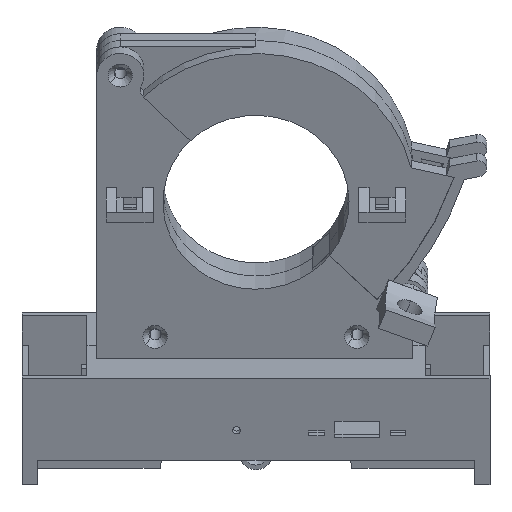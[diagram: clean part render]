
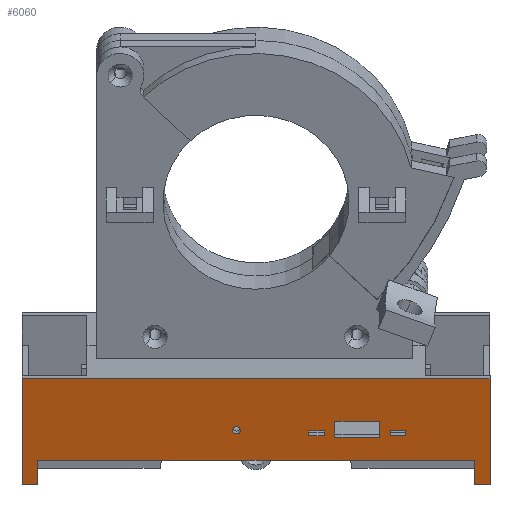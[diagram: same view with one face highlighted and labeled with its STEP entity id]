
A CAD part, top view. The second image highlights one B-rep face of the part: STEP entity #6060.
In plain terms, the highlighted planar face has unit normal (0, -0.359, 0.933) as drawn and (0, -1, 0) by its records, which use the part's own axes.
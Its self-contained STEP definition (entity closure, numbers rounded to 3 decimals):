
#5844=CARTESIAN_POINT('Vertex',(-4.45,-17.5,-42.4)) ;
#5847=CARTESIAN_POINT('Axis2P3D Location',(-3.7,-17.5,-42.4)) ;
#5851=CARTESIAN_POINT('Vertex',(-2.95,-17.5,-42.4)) ;
#5871=CARTESIAN_POINT('Axis2P3D Location',(-3.7,-17.5,-42.4)) ;
#5883=CARTESIAN_POINT('Axis2P3D Location',(0.,-17.5,0.)) ;
#5888=CARTESIAN_POINT('Line Origine',(-41.5,-17.5,-51.)) ;
#5892=CARTESIAN_POINT('Vertex',(-41.5,-17.5,-48.5)) ;
#5894=CARTESIAN_POINT('Vertex',(-41.5,-17.5,-53.5)) ;
#5897=CARTESIAN_POINT('Line Origine',(0.,-17.5,-48.5)) ;
#5901=CARTESIAN_POINT('Vertex',(41.5,-17.5,-48.5)) ;
#5904=CARTESIAN_POINT('Line Origine',(41.5,-17.5,-51.)) ;
#5908=CARTESIAN_POINT('Vertex',(41.5,-17.5,-53.5)) ;
#5911=CARTESIAN_POINT('Line Origine',(43.,-17.5,-53.5)) ;
#5915=CARTESIAN_POINT('Vertex',(44.5,-17.5,-53.5)) ;
#5918=CARTESIAN_POINT('Line Origine',(44.5,-17.5,-42.7)) ;
#5922=CARTESIAN_POINT('Vertex',(44.5,-17.5,-31.9)) ;
#5925=CARTESIAN_POINT('Line Origine',(0.,-17.5,-31.9)) ;
#5929=CARTESIAN_POINT('Vertex',(-44.5,-17.5,-31.9)) ;
#5932=CARTESIAN_POINT('Line Origine',(-44.5,-17.5,-42.7)) ;
#5936=CARTESIAN_POINT('Vertex',(-44.5,-17.5,-53.5)) ;
#5939=CARTESIAN_POINT('Line Origine',(-43.,-17.5,-53.5)) ;
#5958=CARTESIAN_POINT('Line Origine',(23.5,-17.5,-42.2)) ;
#5962=CARTESIAN_POINT('Vertex',(23.5,-17.5,-43.8)) ;
#5964=CARTESIAN_POINT('Vertex',(23.5,-17.5,-40.6)) ;
#5967=CARTESIAN_POINT('Line Origine',(19.25,-17.5,-43.8)) ;
#5971=CARTESIAN_POINT('Vertex',(15.,-17.5,-43.8)) ;
#5974=CARTESIAN_POINT('Line Origine',(15.,-17.5,-42.2)) ;
#5978=CARTESIAN_POINT('Vertex',(15.,-17.5,-40.6)) ;
#5981=CARTESIAN_POINT('Line Origine',(19.25,-17.5,-40.6)) ;
#5992=CARTESIAN_POINT('Line Origine',(13.,-17.5,-43.)) ;
#5996=CARTESIAN_POINT('Vertex',(13.,-17.5,-43.5)) ;
#5998=CARTESIAN_POINT('Vertex',(13.,-17.5,-42.5)) ;
#6001=CARTESIAN_POINT('Line Origine',(11.5,-17.5,-43.5)) ;
#6005=CARTESIAN_POINT('Vertex',(10.,-17.5,-43.5)) ;
#6008=CARTESIAN_POINT('Line Origine',(10.,-17.5,-43.)) ;
#6012=CARTESIAN_POINT('Vertex',(10.,-17.5,-42.5)) ;
#6015=CARTESIAN_POINT('Line Origine',(11.5,-17.5,-42.5)) ;
#6026=CARTESIAN_POINT('Line Origine',(28.5,-17.5,-43.)) ;
#6030=CARTESIAN_POINT('Vertex',(28.5,-17.5,-43.5)) ;
#6032=CARTESIAN_POINT('Vertex',(28.5,-17.5,-42.5)) ;
#6035=CARTESIAN_POINT('Line Origine',(27.,-17.5,-43.5)) ;
#6039=CARTESIAN_POINT('Vertex',(25.5,-17.5,-43.5)) ;
#6042=CARTESIAN_POINT('Line Origine',(25.5,-17.5,-43.)) ;
#6046=CARTESIAN_POINT('Vertex',(25.5,-17.5,-42.5)) ;
#6049=CARTESIAN_POINT('Line Origine',(27.,-17.5,-42.5)) ;
#5848=DIRECTION('Axis2P3D Direction',(0.,-1.,0.)) ;
#5872=DIRECTION('Axis2P3D Direction',(0.,-1.,0.)) ;
#5884=DIRECTION('Axis2P3D Direction',(0.,1.,0.)) ;
#5885=DIRECTION('Axis2P3D XDirection',(-1.,0.,0.)) ;
#5889=DIRECTION('Vector Direction',(0.,0.,-1.)) ;
#5898=DIRECTION('Vector Direction',(-1.,0.,0.)) ;
#5905=DIRECTION('Vector Direction',(0.,0.,-1.)) ;
#5912=DIRECTION('Vector Direction',(-1.,0.,0.)) ;
#5919=DIRECTION('Vector Direction',(0.,0.,-1.)) ;
#5926=DIRECTION('Vector Direction',(-1.,0.,0.)) ;
#5933=DIRECTION('Vector Direction',(0.,0.,1.)) ;
#5940=DIRECTION('Vector Direction',(1.,0.,0.)) ;
#5959=DIRECTION('Vector Direction',(0.,0.,1.)) ;
#5968=DIRECTION('Vector Direction',(-1.,0.,0.)) ;
#5975=DIRECTION('Vector Direction',(0.,0.,-1.)) ;
#5982=DIRECTION('Vector Direction',(1.,0.,0.)) ;
#5993=DIRECTION('Vector Direction',(0.,0.,1.)) ;
#6002=DIRECTION('Vector Direction',(-1.,0.,0.)) ;
#6009=DIRECTION('Vector Direction',(0.,0.,-1.)) ;
#6016=DIRECTION('Vector Direction',(1.,0.,0.)) ;
#6027=DIRECTION('Vector Direction',(0.,0.,1.)) ;
#6036=DIRECTION('Vector Direction',(-1.,0.,0.)) ;
#6043=DIRECTION('Vector Direction',(0.,0.,-1.)) ;
#6050=DIRECTION('Vector Direction',(1.,0.,0.)) ;
#5849=AXIS2_PLACEMENT_3D('Circle Axis2P3D',#5847,#5848,$) ;
#5873=AXIS2_PLACEMENT_3D('Circle Axis2P3D',#5871,#5872,$) ;
#5886=AXIS2_PLACEMENT_3D('Plane Axis2P3D',#5883,#5884,#5885) ;
#5945=ORIENTED_EDGE('',*,*,#5896,.F.) ;
#5946=ORIENTED_EDGE('',*,*,#5903,.F.) ;
#5947=ORIENTED_EDGE('',*,*,#5910,.T.) ;
#5948=ORIENTED_EDGE('',*,*,#5917,.T.) ;
#5949=ORIENTED_EDGE('',*,*,#5924,.F.) ;
#5950=ORIENTED_EDGE('',*,*,#5931,.F.) ;
#5951=ORIENTED_EDGE('',*,*,#5938,.F.) ;
#5952=ORIENTED_EDGE('',*,*,#5943,.F.) ;
#5955=ORIENTED_EDGE('',*,*,#5853,.F.) ;
#5956=ORIENTED_EDGE('',*,*,#5875,.F.) ;
#5987=ORIENTED_EDGE('',*,*,#5966,.F.) ;
#5988=ORIENTED_EDGE('',*,*,#5973,.F.) ;
#5989=ORIENTED_EDGE('',*,*,#5980,.F.) ;
#5990=ORIENTED_EDGE('',*,*,#5985,.F.) ;
#6021=ORIENTED_EDGE('',*,*,#6000,.F.) ;
#6022=ORIENTED_EDGE('',*,*,#6007,.F.) ;
#6023=ORIENTED_EDGE('',*,*,#6014,.F.) ;
#6024=ORIENTED_EDGE('',*,*,#6019,.F.) ;
#6055=ORIENTED_EDGE('',*,*,#6034,.F.) ;
#6056=ORIENTED_EDGE('',*,*,#6041,.F.) ;
#6057=ORIENTED_EDGE('',*,*,#6048,.F.) ;
#6058=ORIENTED_EDGE('',*,*,#6053,.F.) ;
#5957=FACE_BOUND('',#5954,.T.) ;
#5991=FACE_BOUND('',#5986,.T.) ;
#6025=FACE_BOUND('',#6020,.T.) ;
#6059=FACE_BOUND('',#6054,.T.) ;
#5890=VECTOR('Line Direction',#5889,1.) ;
#5899=VECTOR('Line Direction',#5898,1.) ;
#5906=VECTOR('Line Direction',#5905,1.) ;
#5913=VECTOR('Line Direction',#5912,1.) ;
#5920=VECTOR('Line Direction',#5919,1.) ;
#5927=VECTOR('Line Direction',#5926,1.) ;
#5934=VECTOR('Line Direction',#5933,1.) ;
#5941=VECTOR('Line Direction',#5940,1.) ;
#5960=VECTOR('Line Direction',#5959,1.) ;
#5969=VECTOR('Line Direction',#5968,1.) ;
#5976=VECTOR('Line Direction',#5975,1.) ;
#5983=VECTOR('Line Direction',#5982,1.) ;
#5994=VECTOR('Line Direction',#5993,1.) ;
#6003=VECTOR('Line Direction',#6002,1.) ;
#6010=VECTOR('Line Direction',#6009,1.) ;
#6017=VECTOR('Line Direction',#6016,1.) ;
#6028=VECTOR('Line Direction',#6027,1.) ;
#6037=VECTOR('Line Direction',#6036,1.) ;
#6044=VECTOR('Line Direction',#6043,1.) ;
#6051=VECTOR('Line Direction',#6050,1.) ;
#6060=ADVANCED_FACE('PartBody',(#5953,#5957,#5991,#6025,#6059),#5887,.F.) ;
#5850=CIRCLE('generated circle',#5849,0.75) ;
#5874=CIRCLE('generated circle',#5873,0.75) ;
#5853=EDGE_CURVE('',#5845,#5852,#5850,.T.) ;
#5875=EDGE_CURVE('',#5852,#5845,#5874,.T.) ;
#5896=EDGE_CURVE('',#5893,#5895,#5891,.T.) ;
#5903=EDGE_CURVE('',#5902,#5893,#5900,.T.) ;
#5910=EDGE_CURVE('',#5902,#5909,#5907,.T.) ;
#5917=EDGE_CURVE('',#5909,#5916,#5914,.F.) ;
#5924=EDGE_CURVE('',#5923,#5916,#5921,.T.) ;
#5931=EDGE_CURVE('',#5930,#5923,#5928,.F.) ;
#5938=EDGE_CURVE('',#5937,#5930,#5935,.T.) ;
#5943=EDGE_CURVE('',#5895,#5937,#5942,.F.) ;
#5966=EDGE_CURVE('',#5963,#5965,#5961,.T.) ;
#5973=EDGE_CURVE('',#5972,#5963,#5970,.F.) ;
#5980=EDGE_CURVE('',#5979,#5972,#5977,.T.) ;
#5985=EDGE_CURVE('',#5965,#5979,#5984,.F.) ;
#6000=EDGE_CURVE('',#5997,#5999,#5995,.T.) ;
#6007=EDGE_CURVE('',#6006,#5997,#6004,.F.) ;
#6014=EDGE_CURVE('',#6013,#6006,#6011,.T.) ;
#6019=EDGE_CURVE('',#5999,#6013,#6018,.F.) ;
#6034=EDGE_CURVE('',#6031,#6033,#6029,.T.) ;
#6041=EDGE_CURVE('',#6040,#6031,#6038,.F.) ;
#6048=EDGE_CURVE('',#6047,#6040,#6045,.T.) ;
#6053=EDGE_CURVE('',#6033,#6047,#6052,.F.) ;
#5944=EDGE_LOOP('',(#5945,#5946,#5947,#5948,#5949,#5950,#5951,#5952)) ;
#5954=EDGE_LOOP('',(#5955,#5956)) ;
#5986=EDGE_LOOP('',(#5987,#5988,#5989,#5990)) ;
#6020=EDGE_LOOP('',(#6021,#6022,#6023,#6024)) ;
#6054=EDGE_LOOP('',(#6055,#6056,#6057,#6058)) ;
#5953=FACE_OUTER_BOUND('',#5944,.T.) ;
#5891=LINE('Line',#5888,#5890) ;
#5900=LINE('Line',#5897,#5899) ;
#5907=LINE('Line',#5904,#5906) ;
#5914=LINE('Line',#5911,#5913) ;
#5921=LINE('Line',#5918,#5920) ;
#5928=LINE('Line',#5925,#5927) ;
#5935=LINE('Line',#5932,#5934) ;
#5942=LINE('Line',#5939,#5941) ;
#5961=LINE('Line',#5958,#5960) ;
#5970=LINE('Line',#5967,#5969) ;
#5977=LINE('Line',#5974,#5976) ;
#5984=LINE('Line',#5981,#5983) ;
#5995=LINE('Line',#5992,#5994) ;
#6004=LINE('Line',#6001,#6003) ;
#6011=LINE('Line',#6008,#6010) ;
#6018=LINE('Line',#6015,#6017) ;
#6029=LINE('Line',#6026,#6028) ;
#6038=LINE('Line',#6035,#6037) ;
#6045=LINE('Line',#6042,#6044) ;
#6052=LINE('Line',#6049,#6051) ;
#5887=PLANE('',#5886) ;
#5845=VERTEX_POINT('',#5844) ;
#5852=VERTEX_POINT('',#5851) ;
#5893=VERTEX_POINT('',#5892) ;
#5895=VERTEX_POINT('',#5894) ;
#5902=VERTEX_POINT('',#5901) ;
#5909=VERTEX_POINT('',#5908) ;
#5916=VERTEX_POINT('',#5915) ;
#5923=VERTEX_POINT('',#5922) ;
#5930=VERTEX_POINT('',#5929) ;
#5937=VERTEX_POINT('',#5936) ;
#5963=VERTEX_POINT('',#5962) ;
#5965=VERTEX_POINT('',#5964) ;
#5972=VERTEX_POINT('',#5971) ;
#5979=VERTEX_POINT('',#5978) ;
#5997=VERTEX_POINT('',#5996) ;
#5999=VERTEX_POINT('',#5998) ;
#6006=VERTEX_POINT('',#6005) ;
#6013=VERTEX_POINT('',#6012) ;
#6031=VERTEX_POINT('',#6030) ;
#6033=VERTEX_POINT('',#6032) ;
#6040=VERTEX_POINT('',#6039) ;
#6047=VERTEX_POINT('',#6046) ;
